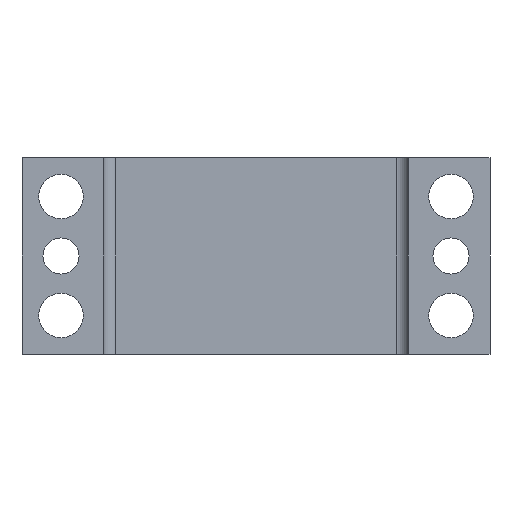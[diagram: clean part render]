
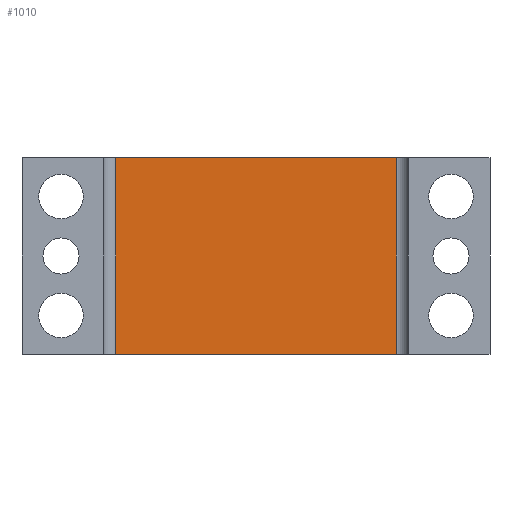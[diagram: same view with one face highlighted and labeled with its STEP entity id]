
A CAD part, front view. The second image highlights one B-rep face of the part: STEP entity #1010.
In plain terms, the highlighted planar face has unit normal (0, -1, 0).
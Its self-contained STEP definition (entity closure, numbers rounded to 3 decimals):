
#19 = VERTEX_POINT ( 'NONE', #264 ) ;
#20 = EDGE_CURVE ( 'NONE', #1333, #45, #280, .T. ) ;
#45 = VERTEX_POINT ( 'NONE', #444 ) ;
#72 = ORIENTED_EDGE ( 'NONE', *, *, #1693, .F. ) ;
#85 = EDGE_LOOP ( 'NONE', ( #88, #72, #1645, #379 ) ) ;
#88 = ORIENTED_EDGE ( 'NONE', *, *, #20, .T. ) ;
#143 = VERTEX_POINT ( 'NONE', #1172 ) ;
#243 = LINE ( 'NONE', #244, #245 ) ;
#244 = CARTESIAN_POINT ( 'NONE',  ( -37.8, 3.2, 26.5 ) ) ;
#245 = VECTOR ( 'NONE', #246, 1000. ) ;
#246 = DIRECTION ( 'NONE',  ( 1., 0., 0. ) ) ;
#264 = CARTESIAN_POINT ( 'NONE',  ( -37.8, 3.2, 26.5 ) ) ;
#280 = LINE ( 'NONE', #281, #282 ) ;
#281 = CARTESIAN_POINT ( 'NONE',  ( -37.8, 3.2, -26.5 ) ) ;
#282 = VECTOR ( 'NONE', #283, 1000. ) ;
#283 = DIRECTION ( 'NONE',  ( 1., 0., 0. ) ) ;
#379 = ORIENTED_EDGE ( 'NONE', *, *, #1641, .T. ) ;
#397 = FACE_OUTER_BOUND ( 'NONE', #85, .T. ) ;
#398 = PLANE ( 'NONE',  #403 ) ;
#403 = AXIS2_PLACEMENT_3D ( 'NONE', #404, #405, #406 ) ;
#404 = CARTESIAN_POINT ( 'NONE',  ( -37.8, 3.2, 26.5 ) ) ;
#405 = DIRECTION ( 'NONE',  ( 0., 1., 0. ) ) ;
#406 = DIRECTION ( 'NONE',  ( 0., 0., 1. ) ) ;
#444 = CARTESIAN_POINT ( 'NONE',  ( 37.8, 3.2, -26.5 ) ) ;
#647 = CARTESIAN_POINT ( 'NONE',  ( -37.8, 3.2, -26.5 ) ) ;
#737 = EDGE_CURVE ( 'NONE', #19, #143, #243, .T. ) ;
#1010 = ADVANCED_FACE ( 'NONE', ( #397 ), #398, .F. ) ;
#1156 = LINE ( 'NONE', #1157, #1158 ) ;
#1157 = CARTESIAN_POINT ( 'NONE',  ( -37.8, 3.2, 26.5 ) ) ;
#1158 = VECTOR ( 'NONE', #1161, 1000. ) ;
#1161 = DIRECTION ( 'NONE',  ( 0., 0., -1. ) ) ;
#1172 = CARTESIAN_POINT ( 'NONE',  ( 37.8, 3.2, 26.5 ) ) ;
#1333 = VERTEX_POINT ( 'NONE', #647 ) ;
#1374 = LINE ( 'NONE', #1375, #1376 ) ;
#1375 = CARTESIAN_POINT ( 'NONE',  ( 37.8, 3.2, 26.5 ) ) ;
#1376 = VECTOR ( 'NONE', #1379, 1000. ) ;
#1379 = DIRECTION ( 'NONE',  ( 0., 0., -1. ) ) ;
#1641 = EDGE_CURVE ( 'NONE', #19, #1333, #1156, .T. ) ;
#1645 = ORIENTED_EDGE ( 'NONE', *, *, #737, .F. ) ;
#1693 = EDGE_CURVE ( 'NONE', #143, #45, #1374, .T. ) ;
